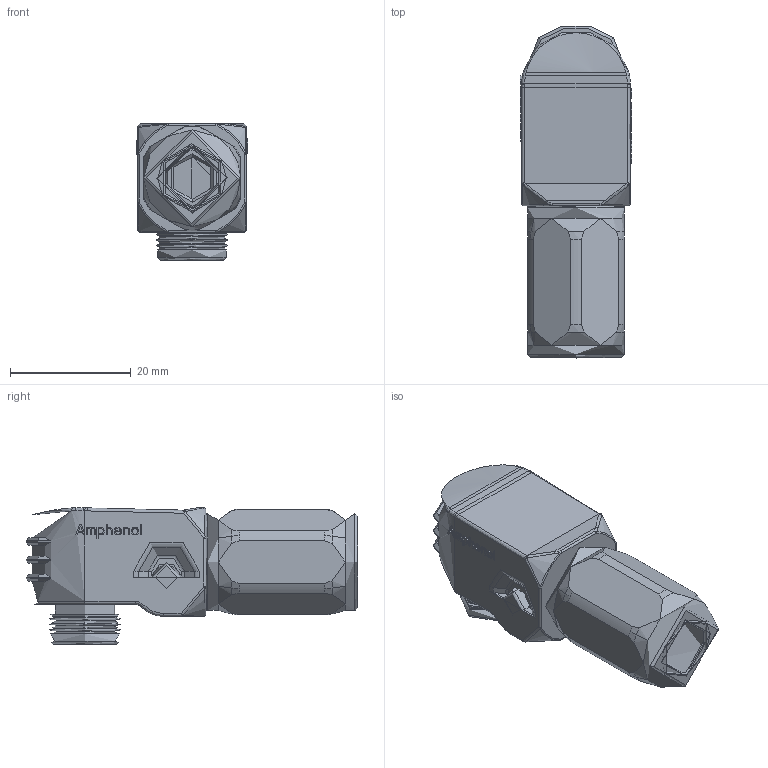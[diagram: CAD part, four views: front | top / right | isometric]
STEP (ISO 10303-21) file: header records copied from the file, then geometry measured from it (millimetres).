
FILE_DESCRIPTION(/* description */ (''),/* implementation_level */ '2;1');
FILE_NAME(/* name */ 'C10-730186-X00_G.step',/* time_stamp */ '2026-07-27T17:13:35-05:00',/* author */ (''),/* organization */ (''),/* preprocessor_version */ 'ST-DEVELOPER v20.1',/* originating_system */ 'Autodesk Translation Framework v15.8.0.0',/* authorisation */ '');
FILE_SCHEMA (('AUTOMOTIVE_DESIGN { 1 0 10303 214 3 1 1 }'));
Length unit declared in the file: inch
Products named in the file (1): C10-730186-X00
Bounding box: 18.4 x 54.95 x 22.6 mm (x, y, z)
Surface area: 8761.2 mm2
Topology: 1 solids, 14 shells, 791 faces, 2305 edges, 1500 vertices
Faces by surface type: plane 510, cylinder 103, torus 76, bspline 63, cone 35, sphere 4
Full cylindrical faces by diameter (mm): 1.3 x1, 1.6 x1, 2.5 x1, 4.5 x1, 4.8 x1, 5.5 x1, 5.994 x2, 6.604 x1, 6.95 x1, 7 x1, 7.68 x1, 10.2 x1, 10.8 x4, 11.3 x2, 16 x2, 16.1 x1
Entity records: 37189 total; most frequent: CARTESIAN_POINT 16885, ORIENTED_EDGE 4365, DIRECTION 3871, EDGE_CURVE 2305, LINE 1519, VECTOR 1519, VERTEX_POINT 1500, AXIS2_PLACEMENT_3D 1176
